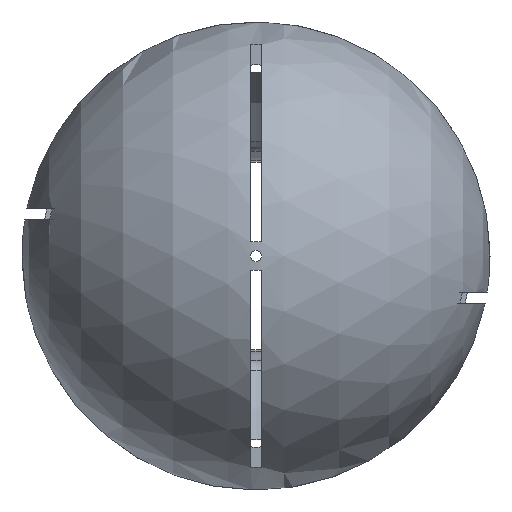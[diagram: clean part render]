
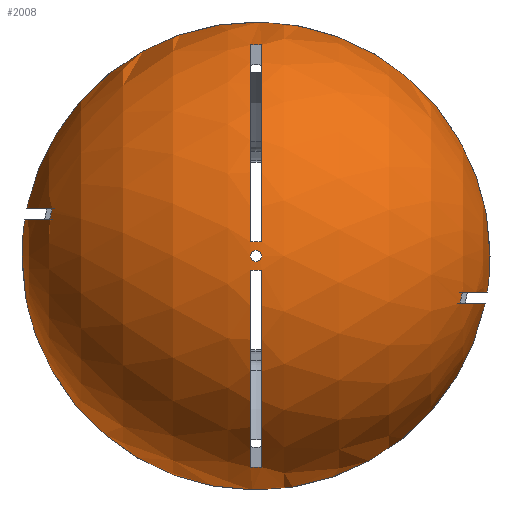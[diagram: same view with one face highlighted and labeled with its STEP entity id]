
A CAD part, left-side view. The second image highlights one B-rep face of the part: STEP entity #2008.
In plain terms, the highlighted spherical face has radius 32.5 mm.
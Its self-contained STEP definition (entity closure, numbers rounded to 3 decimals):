
#1481=CARTESIAN_POINT('',(-32.49,0.8,0.));
#1482=VERTEX_POINT('',#1481);
#1483=CARTESIAN_POINT('',(-32.49,0.,0.0));
#1484=DIRECTION('',(1.0,0.0,0.0));
#1485=DIRECTION('',(0.0,-1.0,0.0));
#1486=AXIS2_PLACEMENT_3D('',#1483,#1484,#1485);
#1487=CIRCLE('',#1486,0.8);
#1488=EDGE_CURVE('',#1482,#1482,#1487,.T.);
#1509=CARTESIAN_POINT('',(-14.,-29.319,0.8));
#1510=VERTEX_POINT('',#1509);
#1511=CARTESIAN_POINT('',(-14.,-29.319,-0.8));
#1512=VERTEX_POINT('',#1511);
#1513=CARTESIAN_POINT('',(-14.,0.,0.));
#1514=DIRECTION('',(1.0,0.0,0.0));
#1515=DIRECTION('',(0.0,0.0,1.0));
#1516=AXIS2_PLACEMENT_3D('',#1513,#1514,#1515);
#1517=CIRCLE('',#1516,29.33);
#1518=EDGE_CURVE('',#1510,#1512,#1517,.T.);
#1551=CARTESIAN_POINT('',(-32.429,-2.,-0.8));
#1552=VERTEX_POINT('',#1551);
#1553=CARTESIAN_POINT('',(0.0,0.,-0.8));
#1554=DIRECTION('',(0.0,0.0,-1.0));
#1555=DIRECTION('',(0.0,-1.0,0.0));
#1556=AXIS2_PLACEMENT_3D('',#1553,#1554,#1555);
#1557=CIRCLE('',#1556,32.49);
#1558=EDGE_CURVE('',#1512,#1552,#1557,.T.);
#1584=CARTESIAN_POINT('',(-32.429,-2.,0.8));
#1585=VERTEX_POINT('',#1584);
#1586=CARTESIAN_POINT('',(0.0,-2.,0.));
#1587=DIRECTION('',(0.0,1.0,0.0));
#1588=DIRECTION('',(0.0,0.0,-1.0));
#1589=AXIS2_PLACEMENT_3D('',#1586,#1587,#1588);
#1590=CIRCLE('',#1589,32.438);
#1591=EDGE_CURVE('',#1552,#1585,#1590,.T.);
#1617=CARTESIAN_POINT('',(0.0,0.0,0.8));
#1618=DIRECTION('',(0.0,0.0,1.0));
#1619=DIRECTION('',(0.0,1.0,0.0));
#1620=AXIS2_PLACEMENT_3D('',#1617,#1618,#1619);
#1621=CIRCLE('',#1620,32.49);
#1622=EDGE_CURVE('',#1585,#1510,#1621,.T.);
#1641=CARTESIAN_POINT('',(-32.429,2.,-0.8));
#1642=VERTEX_POINT('',#1641);
#1643=CARTESIAN_POINT('',(-14.,29.319,-0.8));
#1644=VERTEX_POINT('',#1643);
#1645=CARTESIAN_POINT('',(0.0,0.0,-0.8));
#1646=DIRECTION('',(0.0,0.0,-1.0));
#1647=DIRECTION('',(0.0,-1.0,0.0));
#1648=AXIS2_PLACEMENT_3D('',#1645,#1646,#1647);
#1649=CIRCLE('',#1648,32.49);
#1650=EDGE_CURVE('',#1642,#1644,#1649,.T.);
#1683=CARTESIAN_POINT('',(-14.,29.319,0.8));
#1684=VERTEX_POINT('',#1683);
#1685=CARTESIAN_POINT('',(-14.,0.,0.));
#1686=DIRECTION('',(1.0,0.0,0.0));
#1687=DIRECTION('',(0.0,0.0,1.0));
#1688=AXIS2_PLACEMENT_3D('',#1685,#1686,#1687);
#1689=CIRCLE('',#1688,29.33);
#1690=EDGE_CURVE('',#1644,#1684,#1689,.T.);
#1716=CARTESIAN_POINT('',(-32.429,2.,0.8));
#1717=VERTEX_POINT('',#1716);
#1718=CARTESIAN_POINT('',(0.0,0.0,0.8));
#1719=DIRECTION('',(0.0,0.0,1.0));
#1720=DIRECTION('',(0.0,1.0,0.0));
#1721=AXIS2_PLACEMENT_3D('',#1718,#1719,#1720);
#1722=CIRCLE('',#1721,32.49);
#1723=EDGE_CURVE('',#1684,#1717,#1722,.T.);
#1749=CARTESIAN_POINT('',(0.0,2.,0.0));
#1750=DIRECTION('',(0.0,-1.0,0.0));
#1751=DIRECTION('',(0.0,0.0,1.0));
#1752=AXIS2_PLACEMENT_3D('',#1749,#1750,#1751);
#1753=CIRCLE('',#1752,32.438);
#1754=EDGE_CURVE('',#1717,#1642,#1753,.T.);
#1773=CARTESIAN_POINT('',(-14.5,-5.,28.653));
#1774=VERTEX_POINT('',#1773);
#1775=CARTESIAN_POINT('',(0.0,-5.,32.113));
#1776=VERTEX_POINT('',#1775);
#1777=CARTESIAN_POINT('',(0.0,-5.,0.0));
#1778=DIRECTION('',(0.0,1.0,0.0));
#1779=DIRECTION('',(0.0,0.0,-1.0));
#1780=AXIS2_PLACEMENT_3D('',#1777,#1778,#1779);
#1781=CIRCLE('',#1780,32.113);
#1782=EDGE_CURVE('',#1774,#1776,#1781,.T.);
#1847=CARTESIAN_POINT('',(-14.5,-6.6,28.327));
#1848=VERTEX_POINT('',#1847);
#1849=CARTESIAN_POINT('',(-14.5,0.0,0.0));
#1850=DIRECTION('',(-1.0,0.0,0.0));
#1851=DIRECTION('',(0.0,0.0,-1.0));
#1852=AXIS2_PLACEMENT_3D('',#1849,#1850,#1851);
#1853=CIRCLE('',#1852,29.086);
#1854=EDGE_CURVE('',#1848,#1774,#1853,.T.);
#1880=CARTESIAN_POINT('',(0.,-6.6,31.823));
#1881=VERTEX_POINT('',#1880);
#1882=CARTESIAN_POINT('',(0.0,-6.6,0.0));
#1883=DIRECTION('',(0.0,-1.0,0.0));
#1884=DIRECTION('',(0.0,0.0,1.0));
#1885=AXIS2_PLACEMENT_3D('',#1882,#1883,#1884);
#1886=CIRCLE('',#1885,31.823);
#1887=EDGE_CURVE('',#1881,#1848,#1886,.T.);
#1940=CARTESIAN_POINT('',(0.0,0.0,0.0));
#1941=DIRECTION('',(0.0,0.0,1.0));
#1942=DIRECTION('',(1.0,0.0,0.0));
#1943=AXIS2_PLACEMENT_3D('',#1940,#1941,#1942);
#1944=SPHERICAL_SURFACE('',#1943,32.5);
#1945=ORIENTED_EDGE('',*,*,#1488,.T.);
#1946=EDGE_LOOP('',(#1945));
#1947=FACE_OUTER_BOUND('',#1946,.T.);
#1948=ORIENTED_EDGE('',*,*,#1591,.T.);
#1949=ORIENTED_EDGE('',*,*,#1622,.T.);
#1950=ORIENTED_EDGE('',*,*,#1518,.T.);
#1951=ORIENTED_EDGE('',*,*,#1558,.T.);
#1952=EDGE_LOOP('',(#1948,#1949,#1950,#1951));
#1953=FACE_BOUND('',#1952,.T.);
#1954=ORIENTED_EDGE('',*,*,#1723,.T.);
#1955=ORIENTED_EDGE('',*,*,#1754,.T.);
#1956=ORIENTED_EDGE('',*,*,#1650,.T.);
#1957=ORIENTED_EDGE('',*,*,#1690,.T.);
#1958=EDGE_LOOP('',(#1954,#1955,#1956,#1957));
#1959=FACE_BOUND('',#1958,.T.);
#1960=ORIENTED_EDGE('',*,*,#1887,.T.);
#1961=ORIENTED_EDGE('',*,*,#1854,.T.);
#1962=ORIENTED_EDGE('',*,*,#1782,.T.);
#1963=CARTESIAN_POINT('',(0.0,6.6,-31.823));
#1964=VERTEX_POINT('',#1963);
#1965=CARTESIAN_POINT('',(0.,0.,0.0));
#1966=DIRECTION('',(1.0,0.0,0.0));
#1967=DIRECTION('',(0.0,1.0,0.0));
#1968=AXIS2_PLACEMENT_3D('',#1965,#1966,#1967);
#1969=CIRCLE('',#1968,32.5);
#1970=EDGE_CURVE('',#1964,#1776,#1969,.T.);
#1971=ORIENTED_EDGE('',*,*,#1970,.F.);
#1972=CARTESIAN_POINT('',(-14.5,6.6,-28.327));
#1973=VERTEX_POINT('',#1972);
#1974=CARTESIAN_POINT('',(0.0,6.6,0.0));
#1975=DIRECTION('',(0.0,1.0,0.0));
#1976=DIRECTION('',(0.0,0.0,-1.0));
#1977=AXIS2_PLACEMENT_3D('',#1974,#1975,#1976);
#1978=CIRCLE('',#1977,31.823);
#1979=EDGE_CURVE('',#1964,#1973,#1978,.T.);
#1980=ORIENTED_EDGE('',*,*,#1979,.T.);
#1981=CARTESIAN_POINT('',(-14.5,5.,-28.653));
#1982=VERTEX_POINT('',#1981);
#1983=CARTESIAN_POINT('',(-14.5,0.0,0.0));
#1984=DIRECTION('',(-1.0,0.0,0.0));
#1985=DIRECTION('',(0.0,0.0,-1.0));
#1986=AXIS2_PLACEMENT_3D('',#1983,#1984,#1985);
#1987=CIRCLE('',#1986,29.086);
#1988=EDGE_CURVE('',#1973,#1982,#1987,.T.);
#1989=ORIENTED_EDGE('',*,*,#1988,.T.);
#1990=CARTESIAN_POINT('',(0.0,5.,-32.113));
#1991=VERTEX_POINT('',#1990);
#1992=CARTESIAN_POINT('',(0.0,5.,0.0));
#1993=DIRECTION('',(0.0,-1.0,0.0));
#1994=DIRECTION('',(0.0,0.0,1.0));
#1995=AXIS2_PLACEMENT_3D('',#1992,#1993,#1994);
#1996=CIRCLE('',#1995,32.113);
#1997=EDGE_CURVE('',#1982,#1991,#1996,.T.);
#1998=ORIENTED_EDGE('',*,*,#1997,.T.);
#1999=CARTESIAN_POINT('',(0.,0.,0.0));
#2000=DIRECTION('',(1.0,0.0,0.0));
#2001=DIRECTION('',(0.0,1.0,0.0));
#2002=AXIS2_PLACEMENT_3D('',#1999,#2000,#2001);
#2003=CIRCLE('',#2002,32.5);
#2004=EDGE_CURVE('',#1881,#1991,#2003,.T.);
#2005=ORIENTED_EDGE('',*,*,#2004,.F.);
#2006=EDGE_LOOP('',(#1960,#1961,#1962,#1971,#1980,#1989,#1998,#2005));
#2007=FACE_BOUND('',#2006,.T.);
#2008=ADVANCED_FACE('',(#1947,#1953,#1959,#2007),#1944,.T.);
